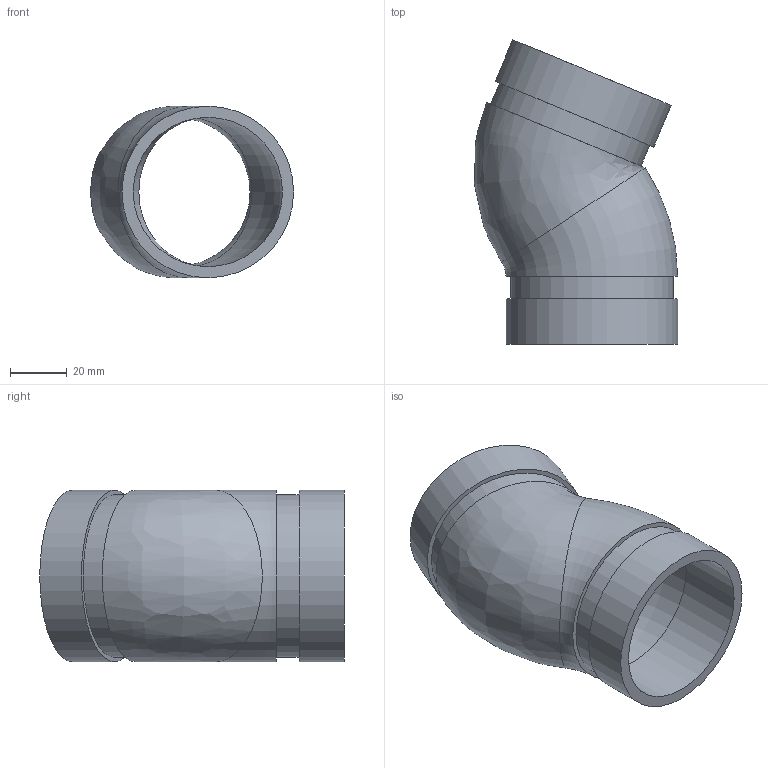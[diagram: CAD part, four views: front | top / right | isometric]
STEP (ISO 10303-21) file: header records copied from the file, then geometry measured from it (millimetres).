
FILE_DESCRIPTION(/* description */ ('VIC ELBOW 22 1/2 DEG GOOSENECK No 12 (OGS)','CAx-IF Rec.Pracs.---Representation and Presentation of Product Manufacturing Information (PMI)---4.0---2014-10-13'),/* implementation_level */ '2;1');
FILE_NAME(/* name */ 'C:\Users\Vjadhav\Desktop\CAD for Inventor\1\12\STEP\Victaulic_IPS_Elbow 22.5 Deg Gooseneck_No 12 (OGS)\Victaulic_IPS_Elbow 22.5 Deg Gooseneck_No 12 (OGS)_2 (50).stp',/* time_stamp */ '2021-12-22T09:18:33+06:00',/* author */ ('Aayare'),/* organization */ ('Victaulic'),/* preprocessor_version */ 'ST-DEVELOPER v17.2',/* originating_system */ 'Autodesk Inventor 2019',/* authorisation */ '');
FILE_SCHEMA (('AP242_MANAGED_MODEL_BASED_3D_ENGINEERING_MIM_LF { 1 0 10303 442 1 1 4 }'));
Length unit declared in the file: inch
Products named in the file (1): GN12-02.0
Bounding box: 71.47 x 107.05 x 60.33 mm (x, y, z)
Volume: 65510.8 mm3; surface area: 37809.3 mm2
Topology: 1 solids, 1 shells, 16 faces, 43 edges, 31 vertices
Faces by surface type: plane 6, cylinder 6, torus 3, bspline 1
Full cylindrical faces by diameter (mm): 52.502 x2, 57.15 x2, 60.325 x2
Entity records: 702 total; most frequent: DIRECTION 134, CARTESIAN_POINT 132, ORIENTED_EDGE 82, AXIS2_PLACEMENT_3D 64, EDGE_CURVE 41, CIRCLE 35, VERTEX_POINT 31, EDGE_LOOP 22
